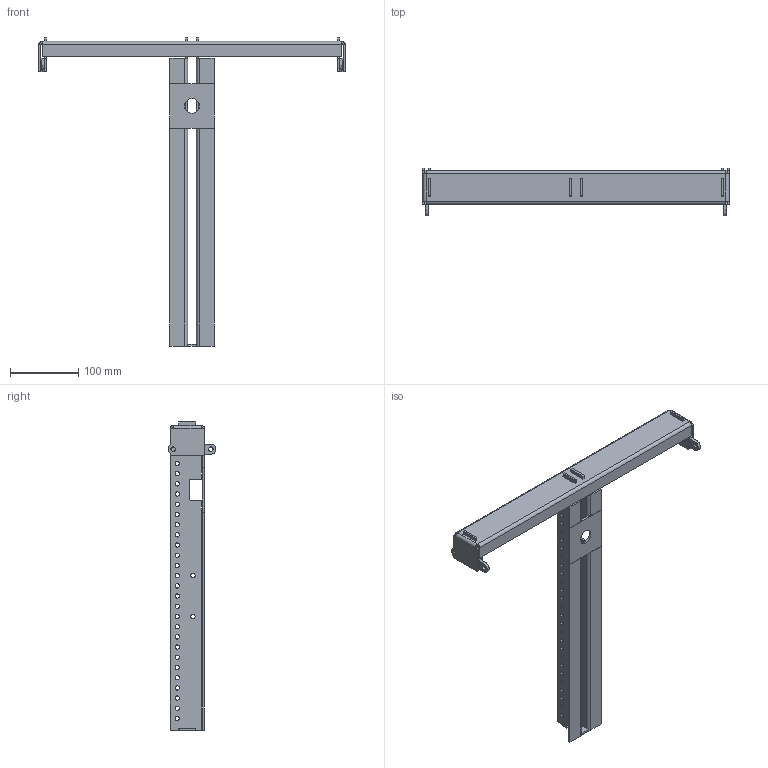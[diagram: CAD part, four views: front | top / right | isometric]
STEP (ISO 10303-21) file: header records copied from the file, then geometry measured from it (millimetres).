
FILE_DESCRIPTION (( 'STEP AP203' ), '1' );
FILE_NAME ('SEEBURG_Galeo-S_light-Frame.STEP', '2016-02-25T09:38:07', ( 'Michael Anter' ), ( 'SEEBURG acoustic line GmbH' ), 'SwSTEP 2.0', 'SolidWorks 2009', '' );
FILE_SCHEMA (( 'CONFIG_CONTROL_DESIGN' ));
Length unit declared in the file: millimetre
Products named in the file (8): SEEBURG_Galeo-S_light-Frame; Galeo S Light Frame Frontprofil; Galeo S Light Frame Mitteltraverse A; Galeo S Light Frame Mitteltraverse B; Galeo S Light Frame Traglasche außen; Galeo S Light Frame Heckplatte; Galeo S Light Frame Traglasche innen; Galeo S Light Frame M20 Platte
Assembly tree (9 placements, depth 2):
  SEEBURG_Galeo-S_light-Frame
    Galeo S Light Frame Traglasche innen  x2
    Galeo S Light Frame M20 Platte
    Galeo S Light Frame Frontprofil
    Galeo S Light Frame Mitteltraverse A
    Galeo S Light Frame Mitteltraverse B
    Galeo S Light Frame Traglasche außen  x2
    Galeo S Light Frame Heckplatte
Bounding box: 450 x 70.5 x 453 mm (x, y, z)
Volume: 333402.8 mm3; surface area: 239466.2 mm2
Topology: 9 solids, 9 shells, 358 faces, 962 edges, 624 vertices
Faces by surface type: plane 192, cylinder 166
Entity records: 11280 total; most frequent: DIRECTION 1846, CARTESIAN_POINT 1759, ORIENTED_EDGE 1732, EDGE_CURVE 866, AXIS2_PLACEMENT_3D 647, VERTEX_POINT 560, LINE 552, VECTOR 552
